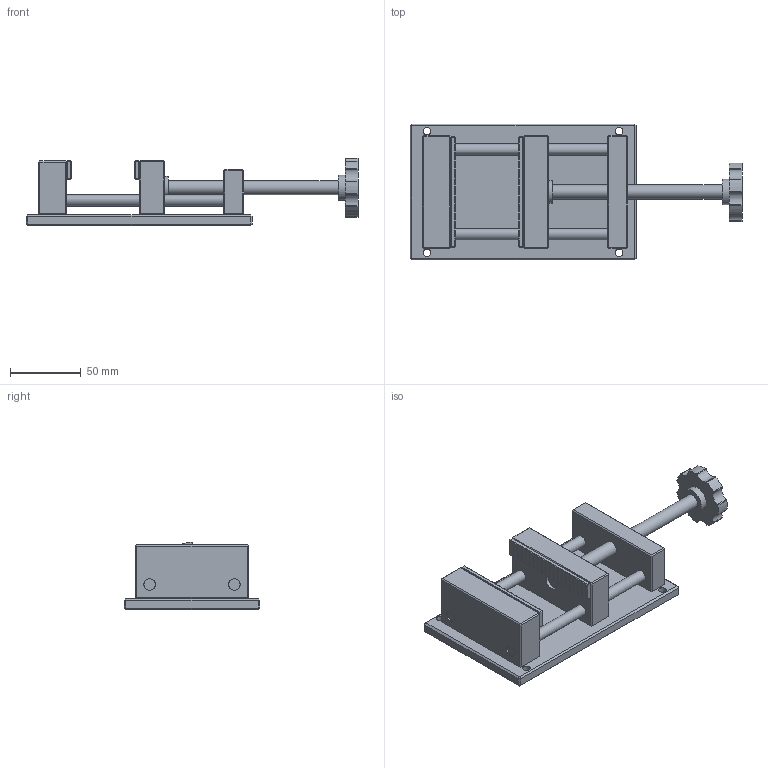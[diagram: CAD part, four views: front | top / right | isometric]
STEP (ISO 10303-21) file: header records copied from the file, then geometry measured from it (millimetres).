
FILE_DESCRIPTION(('Open CASCADE Model'),'2;1');
FILE_NAME('Open CASCADE Shape Model','2026-09-09T12:56:32',('Author'),( 'Open CASCADE'),'Open CASCADE STEP processor 7.9','Open CASCADE 7.9' ,'Unknown');
FILE_SCHEMA(('AUTOMOTIVE_DESIGN { 1 0 10303 214 1 1 1 1 }'));
Length unit declared in the file: millimetre
Products named in the file (10): Twin_rail_bench_vise; frame; moving_jaw; fixed_pad; moving_pad; guide_front; guide_rear; drive_nut; spindle; handwheel
Assembly tree (9 placements, depth 2):
  Twin_rail_bench_vise
    frame
    moving_jaw
    fixed_pad
    moving_pad
    guide_front
    guide_rear
    drive_nut
    spindle
    handwheel
Bounding box: 235 x 96 x 47.99 mm (x, y, z)
Volume: 306759.7 mm3; surface area: 84603.1 mm2
Topology: 9 solids, 9 shells, 456 faces, 1152 edges, 720 vertices
Faces by surface type: plane 408, cylinder 34, bspline 14
Full cylindrical faces by diameter (mm): 5.4 x4, 8 x2, 8.2 x4, 8.5 x2, 10 x2, 10.4 x1, 10.5 x1, 10.6 x2, 16 x1, 18 x1
Entity records: 28835 total; most frequent: CARTESIAN_POINT 7252, DIRECTION 3321, ORIENTED_EDGE 2304, PCURVE 2304, DEFINITIONAL_REPRESENTATION 2304, LINE 2256, VECTOR 2256, EDGE_CURVE 1152
